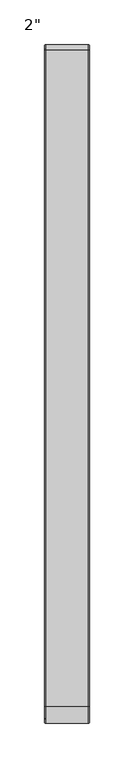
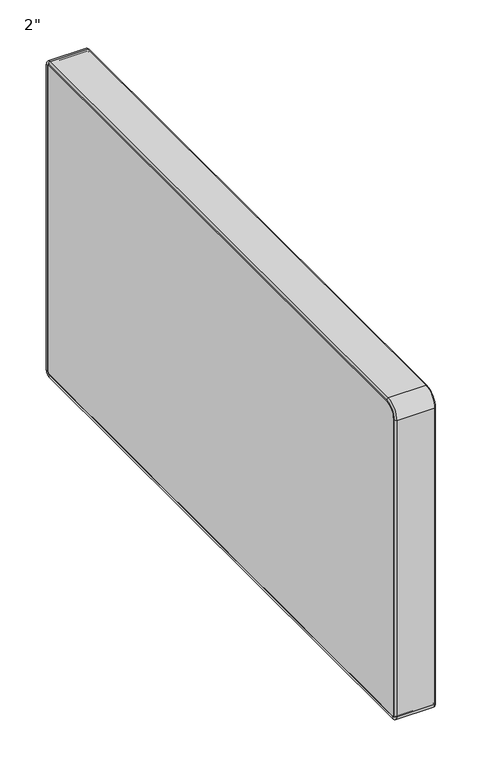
"""IFC4 building model written with IfcOpenShell, lengths in millimetres: furniture geometry."""

import ifcopenshell
import ifcopenshell.guid

model = None  # the IFC model being written
_history = None  # IfcOwnerHistory: only IFC2X3 demands one
_inside = {}  # id of a spatial element -> (the spatial element, [elements in it])
_under = {}  # id of a project, library or spatial element -> (it, [spatial elements below it])
_declared = {}  # id of a project -> (the project, [libraries it declares])
_typed = {}  # id of a type object -> (the type object, [elements of that type])
_made_of = {}  # id of a material, layer set ... -> (it, [elements and type objects made of it])


def new_model(schema):
    """Start an empty IFC model of exactly this schema.

    Asked for "IFC4X3", IfcOpenShell would pick the latest addendum, in which some entities
    have other attributes; the version numbers below select the first issue.
    IFC2X3 requires an IfcOwnerHistory on every rooted entity: one is made here for all.
    """
    global model, _history
    if schema == "IFC4X3":
        model = ifcopenshell.file(schema_version=(4, 3, 0, 0))
    else:
        model = ifcopenshell.file(schema=schema)
    _inside.clear()
    _under.clear()
    _declared.clear()
    _typed.clear()
    _made_of.clear()
    _history = None
    if model.schema == "IFC2X3":
        org = make("IfcOrganization", Name="unknown")
        user = make(
            "IfcPersonAndOrganization",
            ThePerson=make("IfcPerson", FamilyName="unknown"),
            TheOrganization=org,
        )
        app = make(
            "IfcApplication",
            ApplicationDeveloper=org,
            Version="unknown",
            ApplicationFullName="unknown",
            ApplicationIdentifier="unknown",
        )
        _history = make(
            "IfcOwnerHistory",
            OwningUser=user,
            OwningApplication=app,
            ChangeAction="ADDED",
            CreationDate=0,
        )
    return model


def make(cls, **values):
    """One entity of the class cls with the attributes given. An attribute that is None is left unset."""
    return model.create_entity(
        cls, **{name: value for name, value in values.items() if value is not None}
    )


def rooted(cls, **values):
    """An entity with a GlobalId (a new one), such as an element, a storey or a relation."""
    return make(cls, GlobalId=ifcopenshell.guid.new(), OwnerHistory=_history, **values)


def si_unit(unit_type, name, prefix=None):
    """IfcSIUnit, for example si_unit("LENGTHUNIT", "METRE", prefix="MILLI")."""
    return make("IfcSIUnit", UnitType=unit_type, Prefix=prefix, Name=name)


def assignment(units):
    """IfcUnitAssignment: the units of a project."""
    return None if units is None else make("IfcUnitAssignment", Units=units)


def point(xyz):
    """IfcCartesianPoint."""
    return None if xyz is None else make("IfcCartesianPoint", Coordinates=xyz)


def direction(xyz):
    """IfcDirection."""
    return None if xyz is None else make("IfcDirection", DirectionRatios=xyz)


def frame(location, z_axis=None, x_axis=None):
    """IfcAxis2Placement3D, a coordinate frame: its origin and axes. An axis left out is left unset."""
    return make(
        "IfcAxis2Placement3D",
        Location=point(location),
        Axis=direction(z_axis),
        RefDirection=direction(x_axis),
    )


def origin():
    """The frame at (0, 0, 0) with its axes left unset."""
    return frame((0.0, 0.0, 0.0))


def place(relative_to, where):
    """IfcLocalPlacement: puts the frame where relative to a parent placement (None: the world)."""
    return make(
        "IfcLocalPlacement", PlacementRelTo=relative_to, RelativePlacement=where
    )


def context(
    kind, dimensions, precision=None, world=None, true_north=None, identifier=None
):
    """IfcGeometricRepresentationContext, for example the 3D "Model" context."""
    return make(
        "IfcGeometricRepresentationContext",
        ContextIdentifier=identifier,
        ContextType=kind,
        CoordinateSpaceDimension=dimensions,
        Precision=precision,
        WorldCoordinateSystem=world,
        TrueNorth=true_north,
    )


def project(units=None, contexts=None):
    """IfcProject with its units and contexts."""
    return rooted(
        "IfcProject",
        Name="project",
        RepresentationContexts=contexts,
        UnitsInContext=assignment(units),
    )


def spatial(cls, under=None, at=None, **own):
    """A site, building, storey or space (cls), placed at a placement, below another one or the project."""
    s = rooted(cls, ObjectPlacement=at, **own)
    if under is not None:
        _under.setdefault(under.id(), (under, []))[1].append(s)
    return s


def polyline(points):
    """IfcPolyline through the points."""
    return make("IfcPolyline", Points=[point(p) for p in points])


def circle_curve(where, radius):
    """IfcCircle in the frame where."""
    return make("IfcCircle", Position=where, Radius=radius)


def ellipse_curve(where, semi_axis1, semi_axis2):
    """IfcEllipse in the frame where."""
    return make(
        "IfcEllipse", Position=where, SemiAxis1=semi_axis1, SemiAxis2=semi_axis2
    )


def trimmed(basis, trim1, trim2, sense, master):
    """IfcTrimmedCurve: the piece of a basis curve between two trims."""
    return make(
        "IfcTrimmedCurve",
        BasisCurve=basis,
        Trim1=trim1,
        Trim2=trim2,
        SenseAgreement=sense,
        MasterRepresentation=master,
    )


def shape(context_of_items, identifier, shape_type, items):
    """IfcShapeRepresentation: the items that make up one representation, for example the "Body"."""
    return make(
        "IfcShapeRepresentation",
        ContextOfItems=context_of_items,
        RepresentationIdentifier=identifier,
        RepresentationType=shape_type,
        Items=items,
    )


def source(mapping_origin, context_of_items, identifier, shape_type, items):
    """IfcRepresentationMap: a shape defined once, which mapped items show again and again."""
    return make(
        "IfcRepresentationMap",
        MappingOrigin=mapping_origin,
        MappedRepresentation=shape(context_of_items, identifier, shape_type, items),
    )


def transform(
    local_origin,
    x_axis=None,
    y_axis=None,
    z_axis=None,
    scale=None,
    scale2=None,
    scale3=None,
    uniform=True,
):
    """IfcCartesianTransformationOperator3D, or its non-uniform kind. x_axis, y_axis, z_axis: its Axis1, 2, 3."""
    if uniform:
        return make(
            "IfcCartesianTransformationOperator3D",
            Axis1=direction(x_axis),
            Axis2=direction(y_axis),
            LocalOrigin=point(local_origin),
            Scale=scale,
            Axis3=direction(z_axis),
        )
    return make(
        "IfcCartesianTransformationOperator3DnonUniform",
        Axis1=direction(x_axis),
        Axis2=direction(y_axis),
        LocalOrigin=point(local_origin),
        Scale=scale,
        Axis3=direction(z_axis),
        Scale2=scale2,
        Scale3=scale3,
    )


def mapped(mapping_source, mapping_target):
    """IfcMappedItem: shows the shape of a source again, moved by a transform."""
    return make(
        "IfcMappedItem", MappingSource=mapping_source, MappingTarget=mapping_target
    )


def made_of(thing, what):
    """Note that an element or type object is made of a material, layer set ...; save() writes the relation."""
    if what is not None:
        _made_of.setdefault(what.id(), (what, []))[1].append(thing)
    return thing


def element(
    cls,
    number,
    at=None,
    inside=None,
    cuts=None,
    type_object=None,
    material=None,
    context=None,
    identifier="Body",
    shape_type=None,
    held_by="IfcProductDefinitionShape",
    body=None,
    shapes=None,
    **own,
):
    """One element of the class cls, such as IfcWall. Its Tag is "e" and its number.

    at: its placement. inside: the storey or other place that contains it. cuts: it is an
    opening in that element (IfcRelVoidsElement). A single representation is given by context,
    identifier, shape_type and body (its items); several are given by shapes. held_by: the class
    of the entity that holds the representations. save() writes the other relations.
    """
    e = rooted(cls, Tag="e%d" % number, ObjectPlacement=at, **own)
    if body is not None:
        shapes = [shape(context, identifier, shape_type, body)]
    if shapes is not None:
        e.Representation = make(held_by, Representations=shapes)
    if inside is not None:
        _inside.setdefault(inside.id(), (inside, []))[1].append(e)
    if cuts is not None:
        rooted(
            "IfcRelVoidsElement", RelatingBuildingElement=cuts, RelatedOpeningElement=e
        )
    if type_object is not None:
        _typed.setdefault(type_object.id(), (type_object, []))[1].append(e)
    return made_of(e, material)


def aggregate(whole, parts):
    """IfcRelAggregates: a whole, such as a stair, and the parts it consists of."""
    return rooted("IfcRelAggregates", RelatingObject=whole, RelatedObjects=parts)


def save(model, path):
    """Write the relations noted so far, then the file.

    IfcRelAggregates (storeys below a building ...), IfcRelContainedInSpatialStructure (elements
    in a storey), IfcRelDefinesByType, IfcRelAssociatesMaterial and IfcRelDeclares: one each for
    every whole, place, type object, material and project.
    """
    for whole, parts in _under.values():
        aggregate(whole, parts)
    for where, things in _inside.values():
        rooted(
            "IfcRelContainedInSpatialStructure",
            RelatedElements=things,
            RelatingStructure=where,
        )
    for kind, things in _typed.values():
        rooted("IfcRelDefinesByType", RelatedObjects=things, RelatingType=kind)
    for what, things in _made_of.values():
        rooted("IfcRelAssociatesMaterial", RelatedObjects=things, RelatingMaterial=what)
    for by, libraries in _declared.values():
        rooted("IfcRelDeclares", RelatingContext=by, RelatedDefinitions=libraries)
    model.write(path)


def plane_surface(at):
    """IfcPlane: the flat surface through the origin of the frame at, square to its z axis."""
    return make("IfcPlane", Position=at)


def cylinder_surface(at, radius):
    """IfcCylindricalSurface: all points at the distance radius from the z axis of the frame at."""
    return make("IfcCylindricalSurface", Position=at, Radius=radius)


def revolved_surface(curve, axis_point, axis_direction):
    """IfcSurfaceOfRevolution: the curve turned about the line through axis_point along axis_direction."""
    return make(
        "IfcSurfaceOfRevolution",
        SweptCurve=make("IfcArbitraryOpenProfileDef", ProfileType="CURVE", Curve=curve),
        AxisPosition=make("IfcAxis1Placement", Location=point(axis_point), Axis=direction(axis_direction)),
    )


def advanced_brep(points, edges, surfaces, faces):
    """IfcAdvancedBrep: a solid bounded by faces that lie on surfaces and meet in shared edges.

    An edge is (start, end): straight between two places in points (the first is 0);
    or (start, end, curve); or (start, end, curve, False) where it runs against its curve.
    A face is (place in surfaces, loops), or (place, loops, False) where it looks against
    its surface's normal. A loop lists edges by number (the first is 1), with a minus sign
    where the edge is run from its end to its start. The first loop is the outer one.
    """
    corners = [point(p) for p in points]
    vertices = [make("IfcVertexPoint", VertexGeometry=c) for c in corners]
    made = []
    for start, end, *more in edges:
        made.append(
            make(
                "IfcEdgeCurve",
                EdgeStart=vertices[start],
                EdgeEnd=vertices[end],
                EdgeGeometry=more[0] if more else make("IfcPolyline", Points=[corners[start], corners[end]]),
                SameSense=more[1] if len(more) > 1 else True,
            )
        )
    hull = []
    for where, loops, *sense in faces:
        bounds = []
        for j, loop in enumerate(loops):
            ring = [make("IfcOrientedEdge", EdgeElement=made[abs(k) - 1], Orientation=k > 0) for k in loop]
            bounds.append(
                make(
                    "IfcFaceOuterBound" if j == 0 else "IfcFaceBound",
                    Bound=make("IfcEdgeLoop", EdgeList=ring),
                    Orientation=True,
                )
            )
        hull.append(make("IfcAdvancedFace", Bounds=bounds, FaceSurface=surfaces[where], SameSense=sense[0] if sense else True))
    return make("IfcAdvancedBrep", Outer=make("IfcClosedShell", CfsFaces=hull))


def furniture_706b9282(model_context):
    return source(origin(), model_context, "Body", "AdvancedBrep", [
        advanced_brep(
        [(-23.8125, 374.65, 749.3), (-23.8125, 374.65, 746.125), (-23.8125, -361.95, 746.125), (-23.8125, -361.95, 749.3), (23.8125, 374.65, 749.3), (23.8125, -361.95, 749.3), (23.8125, 374.65, 746.125), (23.8125, -361.95, 746.125), (-23.8125, -381.0, 730.25), (-23.8125, -377.825, 730.25), (-23.8125, -377.825, 336.6753315), (-23.8125, -381.0, 336.6753315), (23.8125, -381.0, 730.25), (23.8125, -381.0, 336.6753315), (23.8125, -377.825, 730.25), (23.8125, -377.825, 336.6753315), (-23.8125, -374.65, 330.3253315), (-23.8125, -374.65, 333.5003315), (-23.8125, 374.65, 333.5003315), (-23.8125, 374.65, 330.3253315), (23.8125, -374.65, 330.3253315), (23.8125, 374.65, 330.3253315), (23.8125, -374.65, 333.5003315), (23.8125, 374.65, 333.5003315), (-23.8125, 381.0, 336.6753315), (-23.8125, 377.825, 336.6753315), (-23.8125, 377.825, 742.95), (-23.8125, 381.0, 742.95), (23.8125, 381.0, 336.6753315), (23.8125, 381.0, 742.95), (23.8125, 377.825, 336.6753315), (23.8125, 377.825, 742.95)],
        [
            (0, 1, circle_curve(frame((-23.8125, 374.65, 747.7125), z_axis=(0.0, -1.0, 0.0), x_axis=(0.0, 0.0, -1.0)), 1.5875)),
            (1, 2),
            (2, 3, circle_curve(frame((-23.8125, -361.95, 747.7125), z_axis=(0.0, 1.0, 0.0), x_axis=(0.0, 0.0, -1.0)), 1.5875)),
            (3, 0),
            (4, 0),
            (3, 5),
            (5, 4),
            (6, 4, circle_curve(frame((23.8125, 374.65, 747.7125), z_axis=(0.0, -1.0, 0.0), x_axis=(0.0, 0.0, -1.0)), 1.5875)),
            (5, 7, circle_curve(frame((23.8125, -361.95, 747.7125), z_axis=(0.0, 1.0, 0.0), x_axis=(0.0, 0.0, -1.0)), 1.5875)),
            (7, 6),
            (8, 9, circle_curve(frame((-23.8125, -379.4125, 730.25), z_axis=(0.0, 0.0, -1.0), x_axis=(0.0, 1.0, 0.0)), 1.5875)),
            (9, 10),
            (10, 11, circle_curve(frame((-23.8125, -379.4125, 336.6753315), z_axis=(0.0, 0.0, 1.0), x_axis=(0.0, 1.0, 0.0)), 1.5875)),
            (11, 8),
            (12, 8),
            (11, 13),
            (13, 12),
            (14, 12, circle_curve(frame((23.8125, -379.4125, 730.25), z_axis=(0.0, 0.0, -1.0), x_axis=(0.0, 1.0, 0.0)), 1.5875)),
            (13, 15, circle_curve(frame((23.8125, -379.4125, 336.6753315), z_axis=(0.0, 0.0, 1.0), x_axis=(0.0, 1.0, 0.0)), 1.5875)),
            (15, 14),
            (16, 17, circle_curve(frame((-23.8125, -374.65, 331.9128315), z_axis=(0.0, 1.0, 0.0), x_axis=(0.0, 0.0, 1.0)), 1.5875)),
            (17, 18),
            (18, 19, circle_curve(frame((-23.8125, 374.65, 331.9128315), z_axis=(0.0, -1.0, 0.0), x_axis=(0.0, 0.0, 1.0)), 1.5875)),
            (19, 16),
            (20, 16),
            (19, 21),
            (21, 20),
            (22, 20, circle_curve(frame((23.8125, -374.65, 331.9128315), z_axis=(0.0, 1.0, 0.0), x_axis=(0.0, 0.0, 1.0)), 1.5875)),
            (21, 23, circle_curve(frame((23.8125, 374.65, 331.9128315), z_axis=(0.0, -1.0, 0.0), x_axis=(0.0, 0.0, 1.0)), 1.5875)),
            (23, 22),
            (24, 25, circle_curve(frame((-23.8125, 379.4125, 336.6753315), z_axis=(0.0, 0.0, 1.0), x_axis=(0.0, -1.0, 0.0)), 1.5875)),
            (25, 26),
            (26, 27, circle_curve(frame((-23.8125, 379.4125, 742.95), z_axis=(0.0, 0.0, -1.0), x_axis=(0.0, -1.0, 0.0)), 1.5875)),
            (27, 24),
            (28, 24),
            (27, 29),
            (29, 28),
            (30, 28, circle_curve(frame((23.8125, 379.4125, 336.6753315), z_axis=(0.0, 0.0, 1.0), x_axis=(0.0, -1.0, 0.0)), 1.5875)),
            (29, 31, circle_curve(frame((23.8125, 379.4125, 742.95), z_axis=(0.0, 0.0, -1.0), x_axis=(0.0, -1.0, 0.0)), 1.5875)),
            (31, 30),
            (0, 27, circle_curve(frame((-23.8125, 374.65, 742.95), z_axis=(-1.0, 0.0, 0.0), x_axis=(0.0, 1.0, 0.0)), 6.35)),
            (26, 1, circle_curve(frame((-23.8125, 374.65, 742.95), z_axis=(1.0, 0.0, 0.0), x_axis=(0.0, 1.0, 0.0)), 3.175)),
            (4, 29, circle_curve(frame((23.8125, 374.65, 742.95), z_axis=(-1.0, 0.0, 0.0), x_axis=(0.0, 1.0, 0.0)), 6.35)),
            (6, 31, circle_curve(frame((23.8125, 374.65, 742.95), z_axis=(-1.0, 0.0, 0.0), x_axis=(0.0, 1.0, 0.0)), 3.175)),
            (8, 3, circle_curve(frame((-23.8125, -361.95, 730.25), z_axis=(-1.0, 0.0, 0.0), x_axis=(0.0, 0.0, 1.0)), 19.05)),
            (2, 9, circle_curve(frame((-23.8125, -361.95, 730.25), z_axis=(1.0, 0.0, 0.0), x_axis=(0.0, 0.0, 1.0)), 15.875)),
            (12, 5, circle_curve(frame((23.8125, -361.95, 730.25), z_axis=(-1.0, 0.0, 0.0), x_axis=(0.0, 0.0, 1.0)), 19.05)),
            (14, 7, circle_curve(frame((23.8125, -361.95, 730.25), z_axis=(-1.0, 0.0, 0.0), x_axis=(0.0, 0.0, 1.0)), 15.875)),
            (16, 11, circle_curve(frame((-23.8125, -374.65, 336.6753315), z_axis=(-1.0, 0.0, 0.0), x_axis=(0.0, -1.0, 0.0)), 6.35)),
            (10, 17, circle_curve(frame((-23.8125, -374.65, 336.6753315), z_axis=(1.0, 0.0, 0.0), x_axis=(0.0, -1.0, 0.0)), 3.175)),
            (20, 13, circle_curve(frame((23.8125, -374.65, 336.6753315), z_axis=(-1.0, 0.0, 0.0), x_axis=(0.0, -1.0, 0.0)), 6.35)),
            (22, 15, circle_curve(frame((23.8125, -374.65, 336.6753315), z_axis=(-1.0, 0.0, 0.0), x_axis=(0.0, -1.0, 0.0)), 3.175)),
            (24, 19, circle_curve(frame((-23.8125, 374.65, 336.6753315), z_axis=(-1.0, 0.0, 0.0), x_axis=(0.0, 0.0, -1.0)), 6.35)),
            (18, 25, circle_curve(frame((-23.8125, 374.65, 336.6753315), z_axis=(1.0, 0.0, 0.0), x_axis=(0.0, 0.0, -1.0)), 3.175)),
            (28, 21, circle_curve(frame((23.8125, 374.65, 336.6753315), z_axis=(-1.0, 0.0, 0.0), x_axis=(0.0, 0.0, -1.0)), 6.35)),
            (30, 23, circle_curve(frame((23.8125, 374.65, 336.6753315), z_axis=(-1.0, 0.0, 0.0), x_axis=(0.0, 0.0, -1.0)), 3.175)),
            (2, 7),
            (14, 9),
            (15, 10),
            (22, 17),
            (23, 18),
            (30, 25),
            (31, 26),
            (6, 1),
        ],
        [
            cylinder_surface(frame((-23.8125, 374.65, 747.7125), z_axis=(0.0, 1.0, 0.0), x_axis=(0.0, 0.0, -1.0)), 1.5875),
            plane_surface(frame((-23.8125, 374.65, 749.3), z_axis=(0.0, 0.0, 1.0), x_axis=(0.0, -1.0, 0.0))),
            cylinder_surface(frame((23.8125, 374.65, 747.7125), z_axis=(0.0, 1.0, 0.0), x_axis=(0.0, 0.0, -1.0)), 1.5875),
            cylinder_surface(frame((-23.8125, -379.4125, 730.25), z_axis=(0.0, 0.0, 1.0), x_axis=(0.0, 1.0, 0.0)), 1.5875),
            plane_surface(frame((-23.8125, -381.0, 730.25), z_axis=(0.0, -1.0, 0.0), x_axis=(0.0, 0.0, -1.0))),
            cylinder_surface(frame((23.8125, -379.4125, 730.25), z_axis=(0.0, 0.0, 1.0), x_axis=(0.0, 1.0, 0.0)), 1.5875),
            cylinder_surface(frame((-23.8125, -374.65, 331.9128315), z_axis=(0.0, -1.0, 0.0), x_axis=(0.0, 0.0, 1.0)), 1.5875),
            plane_surface(frame((-23.8125, -374.65, 330.3253315), z_axis=(0.0, 0.0, -1.0), x_axis=(0.0, 1.0, 0.0))),
            cylinder_surface(frame((23.8125, -374.65, 331.9128315), z_axis=(0.0, -1.0, 0.0), x_axis=(0.0, 0.0, 1.0)), 1.5875),
            cylinder_surface(frame((-23.8125, 379.4125, 336.6753315), z_axis=(0.0, 0.0, -1.0), x_axis=(0.0, -1.0, 0.0)), 1.5875),
            plane_surface(frame((-23.8125, 381.0, 336.6753315), z_axis=(0.0, 1.0, 0.0), x_axis=(0.0, 0.0, 1.0))),
            cylinder_surface(frame((23.8125, 379.4125, 336.6753315), z_axis=(0.0, 0.0, -1.0), x_axis=(0.0, -1.0, 0.0)), 1.5875),
            revolved_surface(trimmed(ellipse_curve(frame((-23.8125, 379.4125, 742.95), z_axis=(0.0, 0.0, -1.0), x_axis=(0.0, -1.0, 0.0)), 1.5875, 1.5875), [point((-23.8125, 377.825, 742.95))], [point((-23.8125, 381.0, 742.95))], True, "CARTESIAN"), (0.0, 374.65, 742.95), (1.0, 0.0, 0.0)),
            cylinder_surface(frame((0.0, 374.65, 742.95), z_axis=(1.0, 0.0, 0.0), x_axis=(0.0, 1.0, 0.0)), 6.35),
            revolved_surface(trimmed(ellipse_curve(frame((23.8125, 379.4125, 742.95), z_axis=(0.0, 0.0, -1.0), x_axis=(0.0, -1.0, 0.0)), 1.5875, 1.5875), [point((23.8125, 381.0, 742.95))], [point((23.8125, 377.825, 742.95))], True, "CARTESIAN"), (0.0, 374.65, 742.95), (1.0, 0.0, 0.0)),
            revolved_surface(trimmed(ellipse_curve(frame((-23.8125, -361.95, 747.7125), z_axis=(0.0, 1.0, 0.0), x_axis=(0.0, 0.0, -1.0)), 1.5875, 1.5875), [point((-23.8125, -361.95, 746.125))], [point((-23.8125, -361.95, 749.3))], True, "CARTESIAN"), (0.0, -361.95, 730.25), (1.0, 0.0, 0.0)),
            cylinder_surface(frame((0.0, -361.95, 730.25), z_axis=(1.0, 0.0, 0.0), x_axis=(0.0, 0.0, 1.0)), 19.05),
            revolved_surface(trimmed(ellipse_curve(frame((23.8125, -361.95, 747.7125), z_axis=(0.0, 1.0, 0.0), x_axis=(0.0, 0.0, -1.0)), 1.5875, 1.5875), [point((23.8125, -361.95, 749.3))], [point((23.8125, -361.95, 746.125))], True, "CARTESIAN"), (0.0, -361.95, 730.25), (1.0, 0.0, 0.0)),
            revolved_surface(trimmed(ellipse_curve(frame((-23.8125, -379.4125, 336.6753315), z_axis=(0.0, 0.0, 1.0), x_axis=(0.0, 1.0, 0.0)), 1.5875, 1.5875), [point((-23.8125, -377.825, 336.6753315))], [point((-23.8125, -381.0, 336.6753315))], True, "CARTESIAN"), (0.0, -374.65, 336.6753315), (1.0, 0.0, 0.0)),
            cylinder_surface(frame((0.0, -374.65, 336.6753315), z_axis=(1.0, 0.0, 0.0), x_axis=(0.0, -1.0, 0.0)), 6.35),
            revolved_surface(trimmed(ellipse_curve(frame((23.8125, -379.4125, 336.6753315), z_axis=(0.0, 0.0, 1.0), x_axis=(0.0, 1.0, 0.0)), 1.5875, 1.5875), [point((23.8125, -381.0, 336.6753315))], [point((23.8125, -377.825, 336.6753315))], True, "CARTESIAN"), (0.0, -374.65, 336.6753315), (1.0, 0.0, 0.0)),
            revolved_surface(trimmed(ellipse_curve(frame((-23.8125, 374.65, 331.9128315), z_axis=(0.0, -1.0, 0.0), x_axis=(0.0, 0.0, 1.0)), 1.5875, 1.5875), [point((-23.8125, 374.65, 333.5003315))], [point((-23.8125, 374.65, 330.3253315))], True, "CARTESIAN"), (0.0, 374.65, 336.6753315), (1.0, 0.0, 0.0)),
            cylinder_surface(frame((0.0, 374.65, 336.6753315), z_axis=(1.0, 0.0, 0.0), x_axis=(0.0, 0.0, -1.0)), 6.35),
            revolved_surface(trimmed(ellipse_curve(frame((23.8125, 374.65, 331.9128315), z_axis=(0.0, -1.0, 0.0), x_axis=(0.0, 0.0, 1.0)), 1.5875, 1.5875), [point((23.8125, 374.65, 330.3253315))], [point((23.8125, 374.65, 333.5003315))], True, "CARTESIAN"), (0.0, 374.65, 336.6753315), (1.0, 0.0, 0.0)),
            revolved_surface(polyline([(23.8125, -361.95, 746.125), (-23.8125, -361.95, 746.125)]), (0.0, -361.95, 730.25), (1.0, 0.0, 0.0)),
            plane_surface(frame((23.8125, -377.825, 730.25), z_axis=(0.0, 1.0, 0.0), x_axis=(0.0, 0.0, -1.0))),
            revolved_surface(polyline([(23.8125, -377.825, 336.6753315), (-23.8125, -377.825, 336.6753315)]), (0.0, -374.65, 336.6753315), (1.0, 0.0, 0.0)),
            plane_surface(frame((23.8125, -374.65, 333.5003315), z_axis=(0.0, 0.0, 1.0), x_axis=(0.0, 1.0, 0.0))),
            revolved_surface(polyline([(23.8125, 374.65, 333.5003315), (-23.8125, 374.65, 333.5003315)]), (0.0, 374.65, 336.6753315), (1.0, 0.0, 0.0)),
            plane_surface(frame((23.8125, 377.825, 336.6753315), z_axis=(0.0, -1.0, 0.0), x_axis=(0.0, 0.0, 1.0))),
            revolved_surface(polyline([(23.8125, 377.825, 742.95), (-23.8125, 377.825, 742.95)]), (0.0, 374.65, 742.95), (1.0, 0.0, 0.0)),
            plane_surface(frame((23.8125, 374.65, 746.125), z_axis=(0.0, 0.0, -1.0), x_axis=(0.0, -1.0, 0.0))),
        ],
        [
            (0, [[1, 2, 3, 4]]),
            (1, [[5, -4, 6, 7]]),
            (2, [[8, -7, 9, 10]]),
            (3, [[11, 12, 13, 14]]),
            (4, [[15, -14, 16, 17]]),
            (5, [[18, -17, 19, 20]]),
            (6, [[21, 22, 23, 24]]),
            (7, [[25, -24, 26, 27]]),
            (8, [[28, -27, 29, 30]]),
            (9, [[31, 32, 33, 34]]),
            (10, [[35, -34, 36, 37]]),
            (11, [[38, -37, 39, 40]]),
            (12, [[41, -33, 42, -1]]),
            (13, [[43, -36, -41, -5]]),
            (14, [[44, -39, -43, -8]]),
            (15, [[45, -3, 46, -11]]),
            (16, [[47, -6, -45, -15]]),
            (17, [[48, -9, -47, -18]]),
            (18, [[49, -13, 50, -21]]),
            (19, [[51, -16, -49, -25]]),
            (20, [[52, -19, -51, -28]]),
            (21, [[53, -23, 54, -31]]),
            (22, [[55, -26, -53, -35]]),
            (23, [[56, -29, -55, -38]]),
            (24, [[-46, 57, -48, 58]]),
            (25, [[-58, -20, 59, -12]]),
            (26, [[-50, -59, -52, 60]]),
            (27, [[-60, -30, 61, -22]]),
            (28, [[-54, -61, -56, 62]]),
            (29, [[-62, -40, 63, -32]]),
            (30, [[-42, -63, -44, 64]]),
            (31, [[-64, -10, -57, -2]]),
        ],
    ),
        advanced_brep(
        [(25.4, 374.65, 744.5375), (25.4, -361.95, 744.5375), (25.4, -376.2375, 730.25), (25.4, -376.2375, 336.6753315), (25.4, -374.65, 335.0878315), (25.4, 374.65, 335.0878315), (25.4, 376.2375, 336.6753315), (25.4, 376.2375, 742.95), (-25.4, -361.95, 744.5375), (-25.4, 374.65, 744.5375), (-25.4, 376.2375, 742.95), (-25.4, 376.2375, 336.6753315), (-25.4, 374.65, 335.0878315), (-25.4, -374.65, 335.0878315), (-25.4, -376.2375, 336.6753315), (-25.4, -376.2375, 730.25), (23.8125, 374.65, 746.125), (23.8125, -361.95, 746.125), (-23.8125, 374.65, 746.125), (-23.8125, -361.95, 746.125), (23.8125, -377.825, 730.25), (23.8125, -377.825, 336.6753315), (-23.8125, -377.825, 730.25), (-23.8125, -377.825, 336.6753315), (23.8125, -374.65, 333.5003315), (23.8125, 374.65, 333.5003315), (-23.8125, -374.65, 333.5003315), (-23.8125, 374.65, 333.5003315), (23.8125, 377.825, 336.6753315), (23.8125, 377.825, 742.95), (-23.8125, 377.825, 336.6753315), (-23.8125, 377.825, 742.95)],
        [
            (0, 1),
            (1, 2, circle_curve(frame((25.4, -361.95, 730.25), z_axis=(1.0, 0.0, 0.0), x_axis=(0.0, 0.0, 1.0)), 14.2875)),
            (2, 3),
            (3, 4, circle_curve(frame((25.4, -374.65, 336.6753315), z_axis=(1.0, 0.0, 0.0), x_axis=(0.0, -1.0, 0.0)), 1.5875)),
            (4, 5),
            (5, 6, circle_curve(frame((25.4, 374.65, 336.6753315), z_axis=(1.0, 0.0, 0.0), x_axis=(0.0, 0.0, -1.0)), 1.5875)),
            (6, 7),
            (7, 0, circle_curve(frame((25.4, 374.65, 742.95), z_axis=(1.0, 0.0, 0.0), x_axis=(0.0, 1.0, 0.0)), 1.5875)),
            (8, 9),
            (9, 10, circle_curve(frame((-25.4, 374.65, 742.95), z_axis=(-1.0, 0.0, 0.0), x_axis=(0.0, 1.0, 0.0)), 1.5875)),
            (10, 11),
            (11, 12, circle_curve(frame((-25.4, 374.65, 336.6753315), z_axis=(-1.0, 0.0, 0.0), x_axis=(0.0, 0.0, -1.0)), 1.5875)),
            (12, 13),
            (13, 14, circle_curve(frame((-25.4, -374.65, 336.6753315), z_axis=(-1.0, 0.0, 0.0), x_axis=(0.0, -1.0, 0.0)), 1.5875)),
            (14, 15),
            (15, 8, circle_curve(frame((-25.4, -361.95, 730.25), z_axis=(-1.0, 0.0, 0.0), x_axis=(0.0, 0.0, 1.0)), 14.2875)),
            (0, 16, circle_curve(frame((23.8125, 374.65, 744.5375), z_axis=(0.0, -1.0, 0.0), x_axis=(0.0, 0.0, -1.0)), 1.5875)),
            (16, 17),
            (17, 1, circle_curve(frame((23.8125, -361.95, 744.5375), z_axis=(0.0, 1.0, 0.0), x_axis=(0.0, 0.0, -1.0)), 1.5875)),
            (18, 9, circle_curve(frame((-23.8125, 374.65, 744.5375), z_axis=(0.0, -1.0, 0.0), x_axis=(0.0, 0.0, -1.0)), 1.5875)),
            (8, 19, circle_curve(frame((-23.8125, -361.95, 744.5375), z_axis=(0.0, 1.0, 0.0), x_axis=(0.0, 0.0, -1.0)), 1.5875)),
            (19, 18),
            (2, 20, circle_curve(frame((23.8125, -376.2375, 730.25), z_axis=(0.0, 0.0, -1.0), x_axis=(0.0, 1.0, 0.0)), 1.5875)),
            (20, 21),
            (21, 3, circle_curve(frame((23.8125, -376.2375, 336.6753315), z_axis=(0.0, 0.0, 1.0), x_axis=(0.0, 1.0, 0.0)), 1.5875)),
            (22, 15, circle_curve(frame((-23.8125, -376.2375, 730.25), z_axis=(0.0, 0.0, -1.0), x_axis=(0.0, 1.0, 0.0)), 1.5875)),
            (14, 23, circle_curve(frame((-23.8125, -376.2375, 336.6753315), z_axis=(0.0, 0.0, 1.0), x_axis=(0.0, 1.0, 0.0)), 1.5875)),
            (23, 22),
            (4, 24, circle_curve(frame((23.8125, -374.65, 335.0878315), z_axis=(0.0, 1.0, 0.0), x_axis=(0.0, 0.0, 1.0)), 1.5875)),
            (24, 25),
            (25, 5, circle_curve(frame((23.8125, 374.65, 335.0878315), z_axis=(0.0, -1.0, 0.0), x_axis=(0.0, 0.0, 1.0)), 1.5875)),
            (26, 13, circle_curve(frame((-23.8125, -374.65, 335.0878315), z_axis=(0.0, 1.0, 0.0), x_axis=(0.0, 0.0, 1.0)), 1.5875)),
            (12, 27, circle_curve(frame((-23.8125, 374.65, 335.0878315), z_axis=(0.0, -1.0, 0.0), x_axis=(0.0, 0.0, 1.0)), 1.5875)),
            (27, 26),
            (6, 28, circle_curve(frame((23.8125, 376.2375, 336.6753315), z_axis=(0.0, 0.0, 1.0), x_axis=(0.0, -1.0, 0.0)), 1.5875)),
            (28, 29),
            (29, 7, circle_curve(frame((23.8125, 376.2375, 742.95), z_axis=(0.0, 0.0, -1.0), x_axis=(0.0, -1.0, 0.0)), 1.5875)),
            (30, 11, circle_curve(frame((-23.8125, 376.2375, 336.6753315), z_axis=(0.0, 0.0, 1.0), x_axis=(0.0, -1.0, 0.0)), 1.5875)),
            (10, 31, circle_curve(frame((-23.8125, 376.2375, 742.95), z_axis=(0.0, 0.0, -1.0), x_axis=(0.0, -1.0, 0.0)), 1.5875)),
            (31, 30),
            (29, 16, circle_curve(frame((23.8125, 374.65, 742.95), z_axis=(1.0, 0.0, 0.0), x_axis=(0.0, 1.0, 0.0)), 3.175)),
            (18, 31, circle_curve(frame((-23.8125, 374.65, 742.95), z_axis=(-1.0, 0.0, 0.0), x_axis=(0.0, 1.0, 0.0)), 3.175)),
            (17, 20, circle_curve(frame((23.8125, -361.95, 730.25), z_axis=(1.0, 0.0, 0.0), x_axis=(0.0, 0.0, 1.0)), 15.875)),
            (22, 19, circle_curve(frame((-23.8125, -361.95, 730.25), z_axis=(-1.0, 0.0, 0.0), x_axis=(0.0, 0.0, 1.0)), 15.875)),
            (21, 24, circle_curve(frame((23.8125, -374.65, 336.6753315), z_axis=(1.0, 0.0, 0.0), x_axis=(0.0, -1.0, 0.0)), 3.175)),
            (26, 23, circle_curve(frame((-23.8125, -374.65, 336.6753315), z_axis=(-1.0, 0.0, 0.0), x_axis=(0.0, -1.0, 0.0)), 3.175)),
            (25, 28, circle_curve(frame((23.8125, 374.65, 336.6753315), z_axis=(1.0, 0.0, 0.0), x_axis=(0.0, 0.0, -1.0)), 3.175)),
            (30, 27, circle_curve(frame((-23.8125, 374.65, 336.6753315), z_axis=(-1.0, 0.0, 0.0), x_axis=(0.0, 0.0, -1.0)), 3.175)),
            (17, 19),
            (22, 20),
            (23, 21),
            (26, 24),
            (27, 25),
            (30, 28),
            (31, 29),
            (18, 16),
        ],
        [
            plane_surface(frame((25.4, -348.45625, 730.25), z_axis=(1.0, 0.0, 0.0), x_axis=(0.0, 0.0, 1.0))),
            plane_surface(frame((-25.4, -348.45625, 730.25), z_axis=(-1.0, 0.0, 0.0), x_axis=(0.0, 0.0, -1.0))),
            cylinder_surface(frame((23.8125, 374.65, 744.5375), z_axis=(0.0, 1.0, 0.0), x_axis=(0.0, 0.0, -1.0)), 1.5875),
            cylinder_surface(frame((-23.8125, 374.65, 744.5375), z_axis=(0.0, 1.0, 0.0), x_axis=(0.0, 0.0, -1.0)), 1.5875),
            cylinder_surface(frame((23.8125, -376.2375, 730.25), z_axis=(0.0, 0.0, 1.0), x_axis=(0.0, 1.0, 0.0)), 1.5875),
            cylinder_surface(frame((-23.8125, -376.2375, 730.25), z_axis=(0.0, 0.0, 1.0), x_axis=(0.0, 1.0, 0.0)), 1.5875),
            cylinder_surface(frame((23.8125, -374.65, 335.0878315), z_axis=(0.0, -1.0, 0.0), x_axis=(0.0, 0.0, 1.0)), 1.5875),
            cylinder_surface(frame((-23.8125, -374.65, 335.0878315), z_axis=(0.0, -1.0, 0.0), x_axis=(0.0, 0.0, 1.0)), 1.5875),
            cylinder_surface(frame((23.8125, 376.2375, 336.6753315), z_axis=(0.0, 0.0, -1.0), x_axis=(0.0, -1.0, 0.0)), 1.5875),
            cylinder_surface(frame((-23.8125, 376.2375, 336.6753315), z_axis=(0.0, 0.0, -1.0), x_axis=(0.0, -1.0, 0.0)), 1.5875),
            revolved_surface(trimmed(ellipse_curve(frame((23.8125, 376.2375, 742.95), z_axis=(0.0, 0.0, -1.0), x_axis=(0.0, -1.0, 0.0)), 1.5875, 1.5875), [point((23.8125, 377.825, 742.95))], [point((25.4, 376.2375, 742.95))], True, "CARTESIAN"), (0.0, 374.65, 742.95), (1.0, 0.0, 0.0)),
            revolved_surface(trimmed(ellipse_curve(frame((-23.8125, 376.2375, 742.95), z_axis=(0.0, 0.0, -1.0), x_axis=(0.0, -1.0, 0.0)), 1.5875, 1.5875), [point((-25.4, 376.2375, 742.95))], [point((-23.8125, 377.825, 742.95))], True, "CARTESIAN"), (0.0, 374.65, 742.95), (1.0, 0.0, 0.0)),
            revolved_surface(trimmed(ellipse_curve(frame((23.8125, -361.95, 744.5375), z_axis=(0.0, 1.0, 0.0), x_axis=(0.0, 0.0, -1.0)), 1.5875, 1.5875), [point((23.8125, -361.95, 746.125))], [point((25.4, -361.95, 744.5375))], True, "CARTESIAN"), (0.0, -361.95, 730.25), (1.0, 0.0, 0.0)),
            revolved_surface(trimmed(ellipse_curve(frame((-23.8125, -361.95, 744.5375), z_axis=(0.0, 1.0, 0.0), x_axis=(0.0, 0.0, -1.0)), 1.5875, 1.5875), [point((-25.4, -361.95, 744.5375))], [point((-23.8125, -361.95, 746.125))], True, "CARTESIAN"), (0.0, -361.95, 730.25), (1.0, 0.0, 0.0)),
            revolved_surface(trimmed(ellipse_curve(frame((23.8125, -376.2375, 336.6753315), z_axis=(0.0, 0.0, 1.0), x_axis=(0.0, 1.0, 0.0)), 1.5875, 1.5875), [point((23.8125, -377.825, 336.6753315))], [point((25.4, -376.2375, 336.6753315))], True, "CARTESIAN"), (0.0, -374.65, 336.6753315), (1.0, 0.0, 0.0)),
            revolved_surface(trimmed(ellipse_curve(frame((-23.8125, -376.2375, 336.6753315), z_axis=(0.0, 0.0, 1.0), x_axis=(0.0, 1.0, 0.0)), 1.5875, 1.5875), [point((-25.4, -376.2375, 336.6753315))], [point((-23.8125, -377.825, 336.6753315))], True, "CARTESIAN"), (0.0, -374.65, 336.6753315), (1.0, 0.0, 0.0)),
            revolved_surface(trimmed(ellipse_curve(frame((23.8125, 374.65, 335.0878315), z_axis=(0.0, -1.0, 0.0), x_axis=(0.0, 0.0, 1.0)), 1.5875, 1.5875), [point((23.8125, 374.65, 333.5003315))], [point((25.4, 374.65, 335.0878315))], True, "CARTESIAN"), (0.0, 374.65, 336.6753315), (1.0, 0.0, 0.0)),
            revolved_surface(trimmed(ellipse_curve(frame((-23.8125, 374.65, 335.0878315), z_axis=(0.0, -1.0, 0.0), x_axis=(0.0, 0.0, 1.0)), 1.5875, 1.5875), [point((-25.4, 374.65, 335.0878315))], [point((-23.8125, 374.65, 333.5003315))], True, "CARTESIAN"), (0.0, 374.65, 336.6753315), (1.0, 0.0, 0.0)),
            cylinder_surface(frame((0.0, -361.95, 730.25), z_axis=(1.0, 0.0, 0.0), x_axis=(0.0, 0.0, 1.0)), 15.875),
            plane_surface(frame((-23.8125, -377.825, 730.25), z_axis=(0.0, -1.0, 0.0), x_axis=(0.0, 0.0, -1.0))),
            cylinder_surface(frame((0.0, -374.65, 336.6753315), z_axis=(1.0, 0.0, 0.0), x_axis=(0.0, -1.0, 0.0)), 3.175),
            plane_surface(frame((-23.8125, -374.65, 333.5003315), z_axis=(0.0, 0.0, -1.0), x_axis=(0.0, 1.0, 0.0))),
            cylinder_surface(frame((0.0, 374.65, 336.6753315), z_axis=(1.0, 0.0, 0.0), x_axis=(0.0, 0.0, -1.0)), 3.175),
            plane_surface(frame((-23.8125, 377.825, 336.6753315), z_axis=(0.0, 1.0, 0.0), x_axis=(0.0, 0.0, 1.0))),
            cylinder_surface(frame((0.0, 374.65, 742.95), z_axis=(1.0, 0.0, 0.0), x_axis=(0.0, 1.0, 0.0)), 3.175),
            plane_surface(frame((-23.8125, 374.65, 746.125), z_axis=(0.0, 0.0, 1.0), x_axis=(0.0, -1.0, 0.0))),
        ],
        [
            (0, [[1, 2, 3, 4, 5, 6, 7, 8]]),
            (1, [[9, 10, 11, 12, 13, 14, 15, 16]]),
            (2, [[17, 18, 19, -1]]),
            (3, [[20, -9, 21, 22]]),
            (4, [[23, 24, 25, -3]]),
            (5, [[26, -15, 27, 28]]),
            (6, [[29, 30, 31, -5]]),
            (7, [[32, -13, 33, 34]]),
            (8, [[35, 36, 37, -7]]),
            (9, [[38, -11, 39, 40]]),
            (10, [[-17, -8, -37, 41]]),
            (11, [[-20, 42, -39, -10]]),
            (12, [[-19, 43, -23, -2]]),
            (13, [[-21, -16, -26, 44]]),
            (14, [[-25, 45, -29, -4]]),
            (15, [[-27, -14, -32, 46]]),
            (16, [[-31, 47, -35, -6]]),
            (17, [[-33, -12, -38, 48]]),
            (18, [[-43, 49, -44, 50]]),
            (19, [[-24, -50, -28, 51]]),
            (20, [[-45, -51, -46, 52]]),
            (21, [[-30, -52, -34, 53]]),
            (22, [[-47, -53, -48, 54]]),
            (23, [[-36, -54, -40, 55]]),
            (24, [[-41, -55, -42, 56]]),
            (25, [[-18, -56, -22, -49]]),
        ],
    ),
    ])


if __name__ == "__main__":
    model = new_model("IFC4")
    model_context = context("Model", 3, world=origin())
    ifc_project = project(units=[si_unit("LENGTHUNIT", "METRE", prefix="MILLI")], contexts=[model_context])
    site = spatial("IfcSite", under=ifc_project)
    building = spatial("IfcBuilding", under=site)
    placement = place(None, origin())
    furniture_shape = furniture_706b9282(model_context)
    element("IfcFurniture", 1, ObjectType="Stylex - Free Address - Arm : 2\"", at=placement, inside=building, context=model_context, shape_type="MappedRepresentation", body=[
        mapped(furniture_shape, transform((0.0, 0.0, 0.0), x_axis=(1.0, 0.0, 0.0), y_axis=(0.0, 1.0, 0.0), z_axis=(0.0, 0.0, 1.0))),
    ])
    save(model, "model.ifc")
